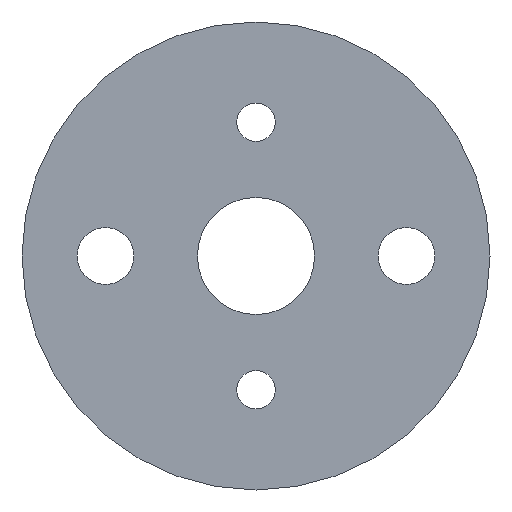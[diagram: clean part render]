
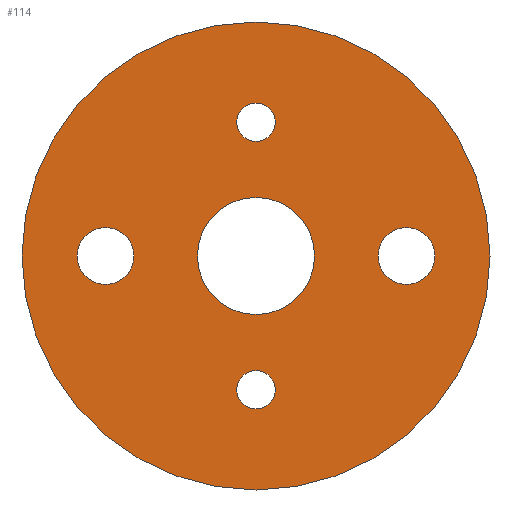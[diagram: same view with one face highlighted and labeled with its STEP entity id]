
A CAD part, left-side view. The second image highlights one B-rep face of the part: STEP entity #114.
In plain terms, the highlighted planar face has unit normal (-1, 0, 0).
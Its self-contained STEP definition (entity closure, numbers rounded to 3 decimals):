
#31 = VERTEX_POINT('',#32);
#32 = CARTESIAN_POINT('',(0.,14.,28.));
#38 = EDGE_CURVE('',#31,#31,#39,.T.);
#39 = CIRCLE('',#40,14.);
#40 = AXIS2_PLACEMENT_3D('',#41,#42,#43);
#41 = CARTESIAN_POINT('',(0.,14.,14.));
#42 = DIRECTION('',(1.,0.,0.));
#43 = DIRECTION('',(-0.,0.,1.));
#114 = ADVANCED_FACE('',(#115,#118,#129,#140,#151,#162),#173,.F.);
#115 = FACE_BOUND('',#116,.F.);
#116 = EDGE_LOOP('',(#117));
#117 = ORIENTED_EDGE('',*,*,#38,.T.);
#118 = FACE_BOUND('',#119,.F.);
#119 = EDGE_LOOP('',(#120));
#120 = ORIENTED_EDGE('',*,*,#121,.F.);
#121 = EDGE_CURVE('',#122,#122,#124,.T.);
#122 = VERTEX_POINT('',#123);
#123 = CARTESIAN_POINT('',(0.,23.,15.7));
#124 = CIRCLE('',#125,1.7);
#125 = AXIS2_PLACEMENT_3D('',#126,#127,#128);
#126 = CARTESIAN_POINT('',(0.,23.,14.));
#127 = DIRECTION('',(1.,0.,0.));
#128 = DIRECTION('',(-0.,0.,1.));
#129 = FACE_BOUND('',#130,.F.);
#130 = EDGE_LOOP('',(#131));
#131 = ORIENTED_EDGE('',*,*,#132,.F.);
#132 = EDGE_CURVE('',#133,#133,#135,.T.);
#133 = VERTEX_POINT('',#134);
#134 = CARTESIAN_POINT('',(0.,14.,7.15));
#135 = CIRCLE('',#136,1.15);
#136 = AXIS2_PLACEMENT_3D('',#137,#138,#139);
#137 = CARTESIAN_POINT('',(0.,14.,6.));
#138 = DIRECTION('',(1.,0.,0.));
#139 = DIRECTION('',(-0.,0.,1.));
#140 = FACE_BOUND('',#141,.F.);
#141 = EDGE_LOOP('',(#142));
#142 = ORIENTED_EDGE('',*,*,#143,.F.);
#143 = EDGE_CURVE('',#144,#144,#146,.T.);
#144 = VERTEX_POINT('',#145);
#145 = CARTESIAN_POINT('',(0.,14.,17.5));
#146 = CIRCLE('',#147,3.5);
#147 = AXIS2_PLACEMENT_3D('',#148,#149,#150);
#148 = CARTESIAN_POINT('',(0.,14.,14.));
#149 = DIRECTION('',(1.,0.,0.));
#150 = DIRECTION('',(-0.,0.,1.));
#151 = FACE_BOUND('',#152,.F.);
#152 = EDGE_LOOP('',(#153));
#153 = ORIENTED_EDGE('',*,*,#154,.F.);
#154 = EDGE_CURVE('',#155,#155,#157,.T.);
#155 = VERTEX_POINT('',#156);
#156 = CARTESIAN_POINT('',(0.,14.,23.15));
#157 = CIRCLE('',#158,1.15);
#158 = AXIS2_PLACEMENT_3D('',#159,#160,#161);
#159 = CARTESIAN_POINT('',(0.,14.,22.));
#160 = DIRECTION('',(1.,0.,0.));
#161 = DIRECTION('',(-0.,0.,1.));
#162 = FACE_BOUND('',#163,.F.);
#163 = EDGE_LOOP('',(#164));
#164 = ORIENTED_EDGE('',*,*,#165,.F.);
#165 = EDGE_CURVE('',#166,#166,#168,.T.);
#166 = VERTEX_POINT('',#167);
#167 = CARTESIAN_POINT('',(0.,5.,15.7));
#168 = CIRCLE('',#169,1.7);
#169 = AXIS2_PLACEMENT_3D('',#170,#171,#172);
#170 = CARTESIAN_POINT('',(0.,5.,14.));
#171 = DIRECTION('',(1.,0.,0.));
#172 = DIRECTION('',(-0.,0.,1.));
#173 = PLANE('',#174);
#174 = AXIS2_PLACEMENT_3D('',#175,#176,#177);
#175 = CARTESIAN_POINT('',(0.,14.,14.));
#176 = DIRECTION('',(1.,0.,0.));
#177 = DIRECTION('',(-0.,0.,1.));
